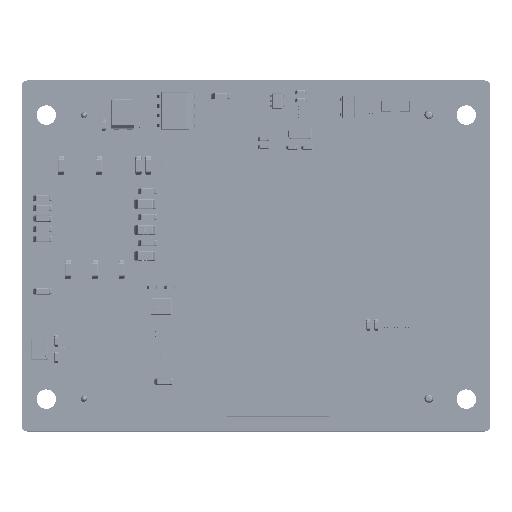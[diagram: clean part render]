
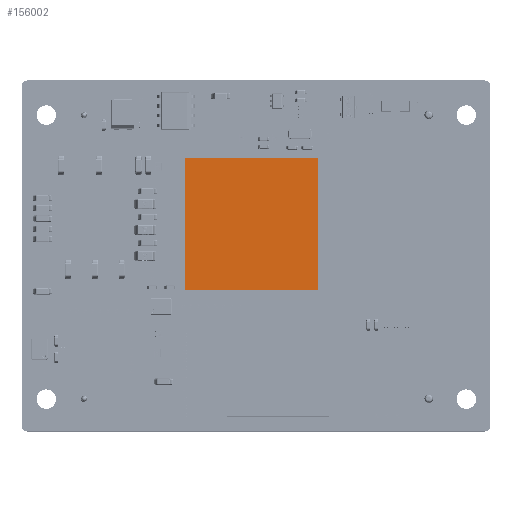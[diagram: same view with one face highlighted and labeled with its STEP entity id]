
A CAD part, top view. The second image highlights one B-rep face of the part: STEP entity #156002.
In plain terms, the highlighted planar face has unit normal (0, 0, 1).
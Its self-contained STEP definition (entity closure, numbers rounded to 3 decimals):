
#155887=DIRECTION('',(1.,0.,0.));
#155888=VECTOR('',#155887,17.);
#155889=CARTESIAN_POINT('',(-8.5,8.5,1.3));
#155890=LINE('',#155889,#155888);
#155894=DIRECTION('',(0.,-1.,0.));
#155895=VECTOR('',#155894,17.);
#155896=CARTESIAN_POINT('',(8.5,8.5,1.3));
#155897=LINE('',#155896,#155895);
#155901=DIRECTION('',(-1.,0.,0.));
#155902=VECTOR('',#155901,17.);
#155903=CARTESIAN_POINT('',(8.5,-8.5,1.3));
#155904=LINE('',#155903,#155902);
#155908=DIRECTION('',(0.,1.,0.));
#155909=VECTOR('',#155908,17.);
#155910=CARTESIAN_POINT('',(-8.5,-8.5,1.3));
#155911=LINE('',#155910,#155909);
#155971=CARTESIAN_POINT('',(-8.5,8.5,1.3));
#155972=CARTESIAN_POINT('',(8.5,8.5,1.3));
#155973=VERTEX_POINT('',#155971);
#155974=VERTEX_POINT('',#155972);
#155975=CARTESIAN_POINT('',(8.5,-8.5,1.3));
#155976=VERTEX_POINT('',#155975);
#155977=CARTESIAN_POINT('',(-8.5,-8.5,1.3));
#155978=VERTEX_POINT('',#155977);
#155987=CARTESIAN_POINT('',(-10.582,10.582,1.3));
#155988=DIRECTION('',(0.,0.,1.));
#155989=DIRECTION('',(1.,0.,0.));
#155990=AXIS2_PLACEMENT_3D('',#155987,#155988,#155989);
#155991=PLANE('',#155990);
#155993=ORIENTED_EDGE('',*,*,#155992,.T.);
#155995=ORIENTED_EDGE('',*,*,#155994,.T.);
#155997=ORIENTED_EDGE('',*,*,#155996,.T.);
#155999=ORIENTED_EDGE('',*,*,#155998,.T.);
#156000=EDGE_LOOP('',(#155993,#155995,#155997,#155999));
#156001=FACE_OUTER_BOUND('',#156000,.F.);
#155992=EDGE_CURVE('',#155973,#155974,#155890,.T.);
#155994=EDGE_CURVE('',#155974,#155976,#155897,.T.);
#155996=EDGE_CURVE('',#155976,#155978,#155904,.T.);
#155998=EDGE_CURVE('',#155978,#155973,#155911,.T.);
#156002=ADVANCED_FACE('',(#156001),#155991,.T.);
